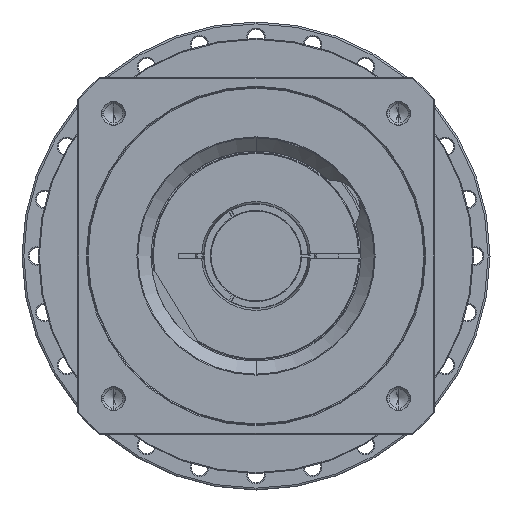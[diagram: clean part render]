
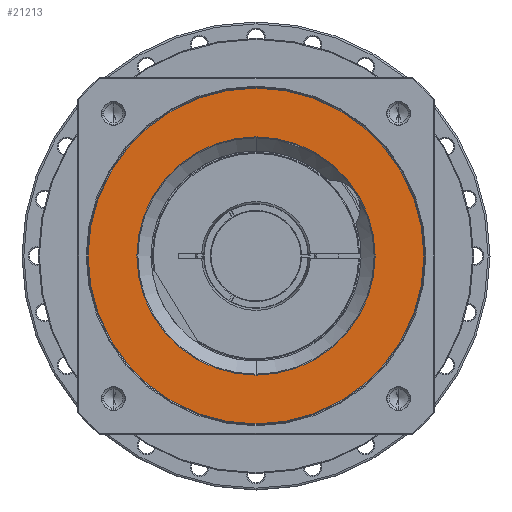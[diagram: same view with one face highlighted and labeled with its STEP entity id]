
A CAD part, left-side view. The second image highlights one B-rep face of the part: STEP entity #21213.
In plain terms, the highlighted planar face has unit normal (-1, 0, 0) as drawn and (0, 0, 1) by its records, which use the part's own axes.
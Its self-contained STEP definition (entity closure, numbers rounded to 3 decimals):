
#20067=CARTESIAN_POINT('',(0.,0.,46.));
#20068=DIRECTION('',(0.,0.,-1.));
#20069=DIRECTION('',(0.,-1.,0.));
#20070=AXIS2_PLACEMENT_3D('',#20067,#20068,#20069);
#20072=CARTESIAN_POINT('',(0.,0.,46.));
#20073=DIRECTION('',(0.,0.,-1.));
#20074=DIRECTION('',(0.,1.,0.));
#20075=AXIS2_PLACEMENT_3D('',#20072,#20073,#20074);
#20077=CARTESIAN_POINT('',(0.,0.,
46.));
#20078=DIRECTION('',(0.,0.,-1.));
#20079=DIRECTION('',(1.,0.,0.));
#20080=AXIS2_PLACEMENT_3D('',#20077,#20078,#20079);
#20082=CARTESIAN_POINT('',(0.,0.,
46.));
#20083=DIRECTION('',(0.,0.,-1.));
#20084=DIRECTION('',(-1.,0.,0.));
#20085=AXIS2_PLACEMENT_3D('',#20082,#20083,#20084);
#20949=CARTESIAN_POINT('',(0.,-89.5,46.));
#20950=CARTESIAN_POINT('',(0.,89.5,46.));
#20951=VERTEX_POINT('',#20949);
#20952=VERTEX_POINT('',#20950);
#20985=CARTESIAN_POINT('',(63.5,0.,46.));
#20986=CARTESIAN_POINT('',(-63.5,0.,
46.));
#20987=VERTEX_POINT('',#20985);
#20988=VERTEX_POINT('',#20986);
#21197=CARTESIAN_POINT('',(0.,0.,46.));
#21198=DIRECTION('',(0.,0.,-1.));
#21199=DIRECTION('',(0.,-1.,0.));
#21200=AXIS2_PLACEMENT_3D('',#21197,#21198,#21199);
#21201=PLANE('',#21200);
#21203=ORIENTED_EDGE('',*,*,#21202,.T.);
#21205=ORIENTED_EDGE('',*,*,#21204,.T.);
#21206=EDGE_LOOP('',(#21203,#21205));
#21207=FACE_OUTER_BOUND('',#21206,.F.);
#21208=ORIENTED_EDGE('',*,*,#21187,.F.);
#21210=ORIENTED_EDGE('',*,*,#21209,.F.);
#21211=EDGE_LOOP('',(#21208,#21210));
#21212=FACE_BOUND('',#21211,.F.);
#21213=ADVANCED_FACE('',(#21207,#21212),#21201,.F.);
#20071=CIRCLE('',#20070,89.5);
#20076=CIRCLE('',#20075,89.5);
#20081=CIRCLE('',#20080,63.5);
#20086=CIRCLE('',#20085,63.5);
#21187=EDGE_CURVE('',#20987,#20988,#20081,.T.);
#21202=EDGE_CURVE('',#20951,#20952,#20071,.T.);
#21204=EDGE_CURVE('',#20952,#20951,#20076,.T.);
#21209=EDGE_CURVE('',#20988,#20987,#20086,.T.);
